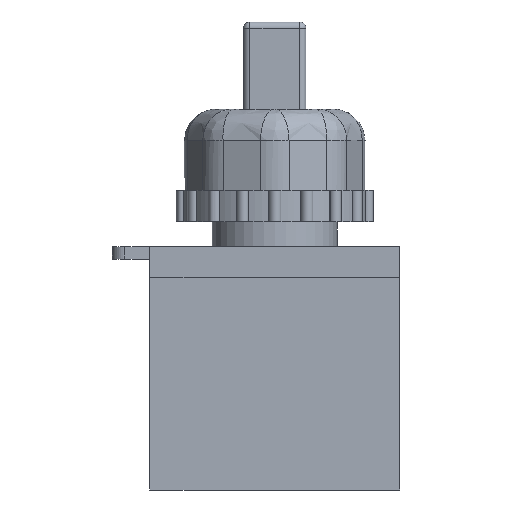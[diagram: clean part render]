
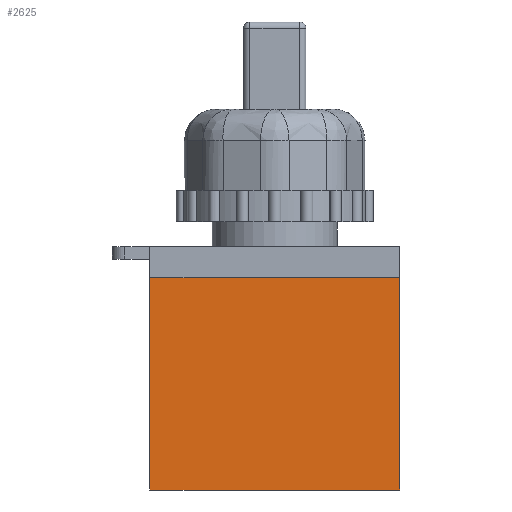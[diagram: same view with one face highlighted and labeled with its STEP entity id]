
A CAD part, front view. The second image highlights one B-rep face of the part: STEP entity #2625.
In plain terms, the highlighted planar face has unit normal (0, -1, 0).
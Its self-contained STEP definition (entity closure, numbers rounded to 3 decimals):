
#270=FACE_OUTER_BOUND('',#431,.T.);
#431=EDGE_LOOP('',(#1760,#1761,#1762,#1763));
#597=LINE('',#3896,#843);
#599=LINE('',#3900,#845);
#602=LINE('',#3905,#848);
#603=LINE('',#3907,#849);
#843=VECTOR('',#3083,10.);
#845=VECTOR('',#3087,10.);
#848=VECTOR('',#3092,10.);
#849=VECTOR('',#3095,10.);
#1088=VERTEX_POINT('',#3893);
#1089=VERTEX_POINT('',#3895);
#1090=VERTEX_POINT('',#3899);
#1091=VERTEX_POINT('',#3903);
#1347=EDGE_CURVE('',#1089,#1088,#597,.T.);
#1349=EDGE_CURVE('',#1090,#1089,#599,.T.);
#1352=EDGE_CURVE('',#1091,#1088,#602,.T.);
#1353=EDGE_CURVE('',#1090,#1091,#603,.T.);
#1760=ORIENTED_EDGE('',*,*,#1349,.T.);
#1761=ORIENTED_EDGE('',*,*,#1347,.T.);
#1762=ORIENTED_EDGE('',*,*,#1352,.F.);
#1763=ORIENTED_EDGE('',*,*,#1353,.F.);
#2541=PLANE('',#2796);
#2625=ADVANCED_FACE('',(#270),#2541,.T.);
#2796=AXIS2_PLACEMENT_3D('',#3908,#3096,#3097);
#3083=DIRECTION('',(0.,0.,1.));
#3087=DIRECTION('',(1.,0.,0.));
#3092=DIRECTION('',(1.,0.,0.));
#3095=DIRECTION('',(0.,0.,1.));
#3096=DIRECTION('center_axis',(0.,-1.,0.));
#3097=DIRECTION('ref_axis',(1.,0.,0.));
#3893=CARTESIAN_POINT('',(20.,-15.5,34.));
#3895=CARTESIAN_POINT('',(20.,-15.5,0.));
#3896=CARTESIAN_POINT('',(20.,-15.5,0.));
#3899=CARTESIAN_POINT('',(-20.,-15.5,0.));
#3900=CARTESIAN_POINT('',(-20.,-15.5,0.));
#3903=CARTESIAN_POINT('',(-20.,-15.5,34.));
#3905=CARTESIAN_POINT('',(-20.,-15.5,34.));
#3907=CARTESIAN_POINT('',(-20.,-15.5,0.));
#3908=CARTESIAN_POINT('Origin',(-20.,-15.5,0.));
